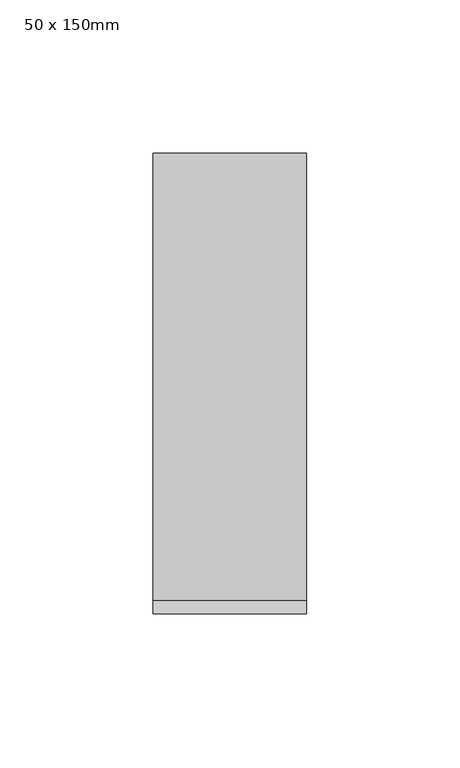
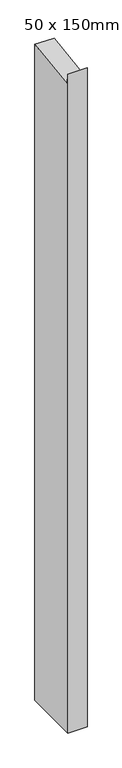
"""IFC4 building model written with IfcOpenShell, lengths in millimetres: member geometry, 矩形竖梃 : 50 x 150mm."""

from ifc_helpers import new_model, si_unit, frame, origin, place, context, project, spatial, polyline, outline, extrude, source, transform, mapped, element, save


def member_50_x_150mm_166c6062(model_context):
    return source(origin(), model_context, "Body", "SweptSolid", [
        extrude(outline(polyline([(-75.0, 19.6109918), (-70.6553215, -10.4658364), (75.0, 10.5744657), (75.0, -1805.0000063), (-75.0, -1805.0000063), (-75.0, 19.6109918)])), frame((-50.0, 0.0, 0.0), z_axis=(1.0, 0.0, 0.0), x_axis=(0.0, 1.0, 0.0)), (0.0, 0.0, 1.0), 50.0),
    ])


if __name__ == "__main__":
    model = new_model("IFC4")
    model_context = context("Model", 3, world=origin())
    ifc_project = project(units=[si_unit("LENGTHUNIT", "METRE", prefix="MILLI")], contexts=[model_context])
    site = spatial("IfcSite", under=ifc_project)
    building = spatial("IfcBuilding", under=site)
    placement = place(None, origin())
    member_50_x_150mm_shape = member_50_x_150mm_166c6062(model_context)
    element("IfcMember", 1, ObjectType="矩形竖梃 : 50 x 150mm", at=placement, inside=building, context=model_context, shape_type="MappedRepresentation", body=[
        mapped(member_50_x_150mm_shape, transform((0.0, 0.0, 0.0), x_axis=(1.0, 0.0, 0.0), y_axis=(0.0, 1.0, 0.0), z_axis=(0.0, 0.0, 1.0))),
    ])
    save(model, "model.ifc")
